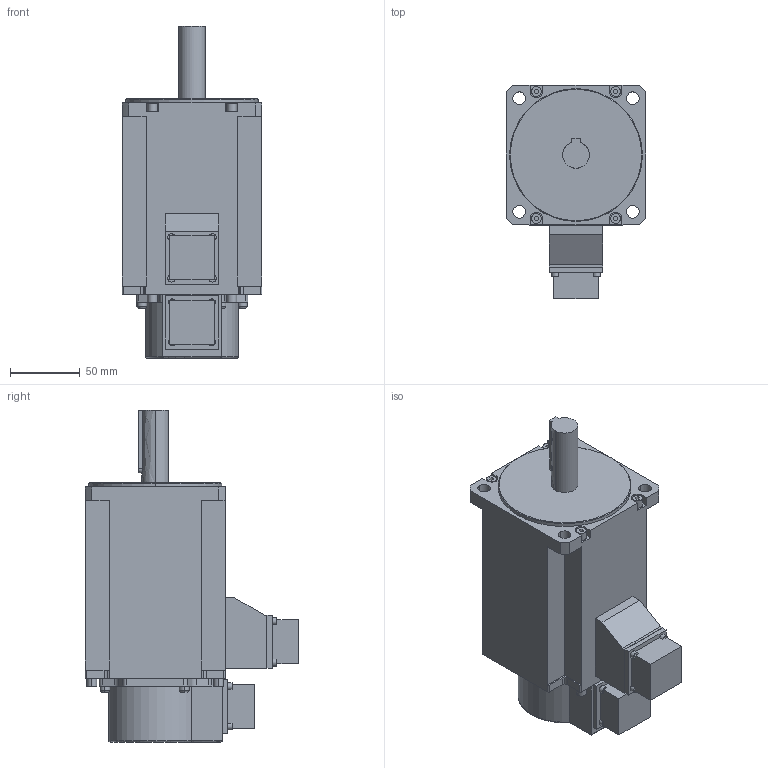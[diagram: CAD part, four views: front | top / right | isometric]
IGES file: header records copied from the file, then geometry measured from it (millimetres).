
Start section:  PTC IGES file: rsms_10atk3-070830.igs
Global section: file name: rsms_10atk3-070830.igs; native system: Pro/ENGINEER by Parametric Technology Corporation; preprocessor: 2004440; author: Administrator; organization: Unknown; date: 070830.161232; units: millimetre
Bounding box: 100 x 152.7 x 237.5 mm (x, y, z)
Volume: 1555016.8 mm3; surface area: 104514.5 mm2
Topology: 1 solids, 1 shells, 270 faces, 708 edges, 464 vertices
Faces by surface type: bspline 171, revolution 99
